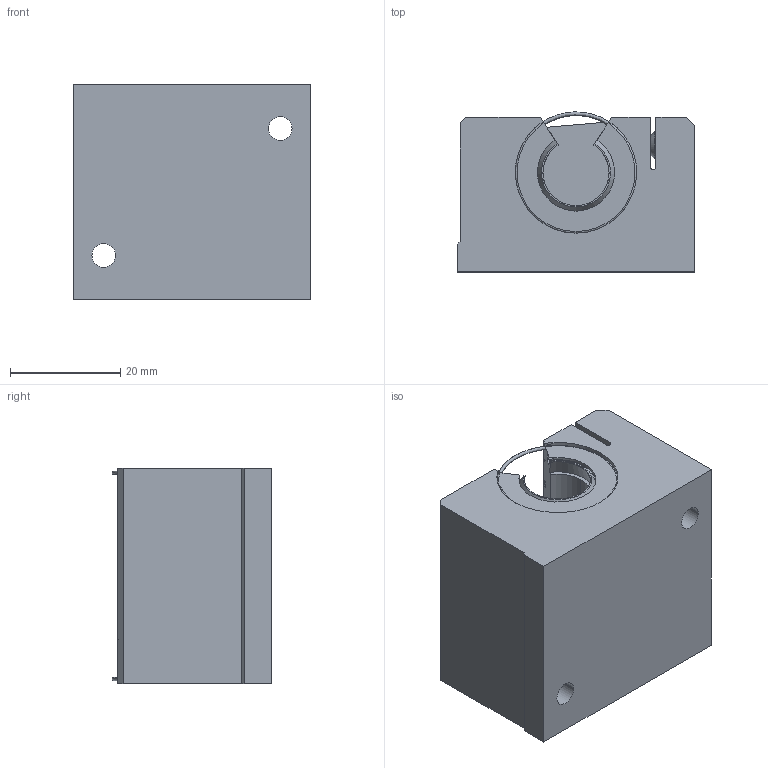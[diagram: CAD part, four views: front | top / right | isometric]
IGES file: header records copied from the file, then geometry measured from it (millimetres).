
Start section: 3D InterOp IGES (Version 21 0 1), Spatial Corp. Copyright (c) 1999-2007.
Global section: file name: SLS-12-OP.igs; native system: Spatial Corp.; preprocessor: 3D InterOp GENERIC/IGES 3.0; author: Noname; organization: Noname; date: 20220310.163728; units: millimetre
Bounding box: 43 x 29 x 39 mm (x, y, z)
Surface area: 12125.4 mm2 (no closed solid volume)
Topology: 0 solids, 0 shells, 134 faces, 730 edges, 719 vertices
Faces by surface type: revolution 88, extrusion 46
